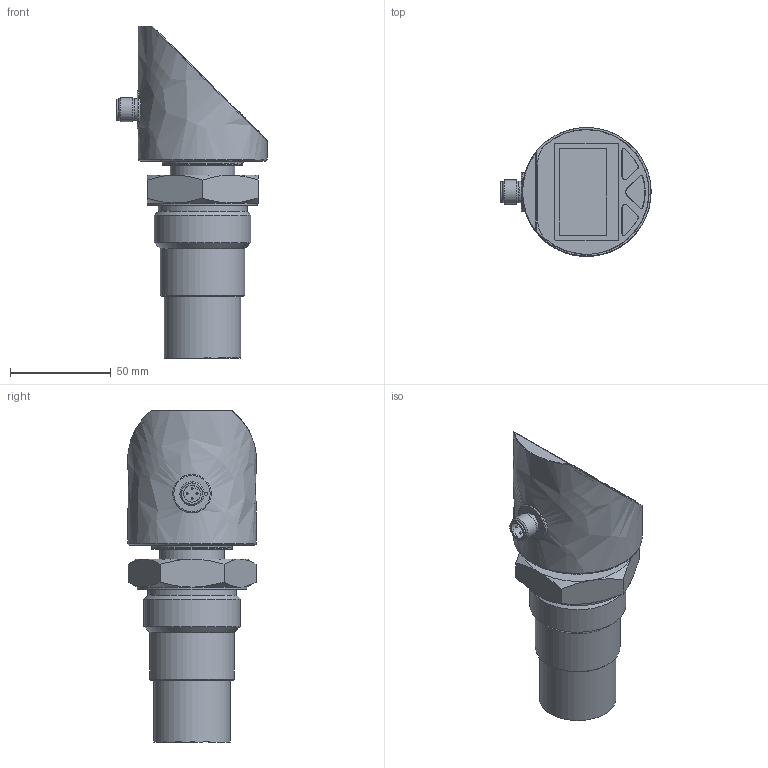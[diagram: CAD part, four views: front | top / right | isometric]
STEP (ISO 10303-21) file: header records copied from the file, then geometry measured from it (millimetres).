
FILE_DESCRIPTION( ('This file contains a STEP AP42 implementation' ,'as created by ZW3D STEP Interface translator.') ,'2;1' );
FILE_NAME( 'usn4sp_05.stp' ,'17 5 5.115252', (''), ('ZWCAD Software Co.'), 'Version 1.0', 'ZW3D to STEP translator', '' );
FILE_SCHEMA( ('CONFIG_CONTROL_DESIGN') );
Length unit declared in the file: millimetre
Products named in the file (1): 0
Bounding box: 74.5 x 63.98 x 164.7 mm (x, y, z)
Volume: 282407.6 mm3; surface area: 36649.7 mm2
Topology: 1 solids, 2 shells, 122 faces, 262 edges, 166 vertices
Faces by surface type: bspline 122
Entity records: 4768 total; most frequent: CARTESIAN_POINT 3036, ORIENTED_EDGE 524, EDGE_CURVE 262, VERTEX_POINT 166, EDGE_LOOP 144, FACE_OUTER_BOUND 122, ADVANCED_FACE 122, OVER_RIDING_STYLED_ITEM 122
